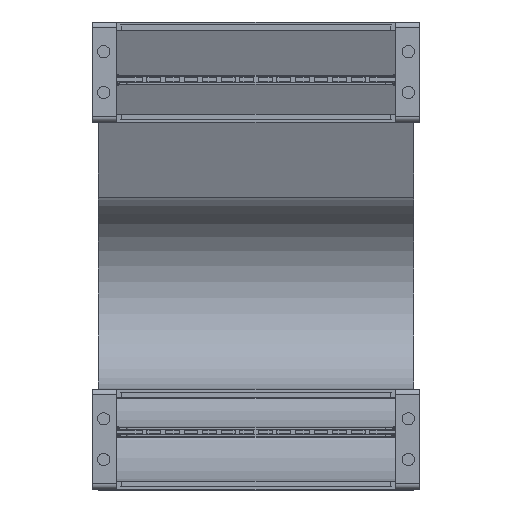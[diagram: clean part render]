
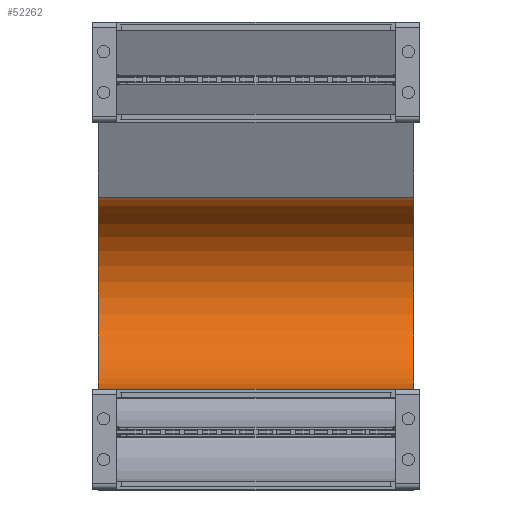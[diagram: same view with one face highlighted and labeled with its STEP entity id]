
A CAD part, top view. The second image highlights one B-rep face of the part: STEP entity #52262.
In plain terms, the highlighted cylindrical face has radius 52 mm (diameter 104 mm), a partial arc.
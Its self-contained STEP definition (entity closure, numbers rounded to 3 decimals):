
#51414=DIRECTION('',(-1.,0.,0.));
#51415=VECTOR('',#51414,170.);
#51416=CARTESIAN_POINT('',(85.,54.,-500.));
#51417=LINE('',#51416,#51415);
#51428=DIRECTION('',(-1.,0.,0.));
#51429=VECTOR('',#51428,170.);
#51430=CARTESIAN_POINT('',(85.,157.747,-505.126));
#51431=LINE('',#51430,#51429);
#51435=CARTESIAN_POINT('',(85.,106.,-500.));
#51436=DIRECTION('',(-1.,0.,0.));
#51437=DIRECTION('',(0.,0.995,-0.099));
#51438=AXIS2_PLACEMENT_3D('',#51435,#51436,#51437);
#51514=CARTESIAN_POINT('',(-85.,106.,-500.));
#51515=DIRECTION('',(-1.,0.,0.));
#51516=DIRECTION('',(0.,0.995,-0.099));
#51517=AXIS2_PLACEMENT_3D('',#51514,#51515,#51516);
#51636=CARTESIAN_POINT('',(85.,157.747,-505.126));
#51637=CARTESIAN_POINT('',(-85.,157.747,-505.126));
#51638=VERTEX_POINT('',#51636);
#51639=VERTEX_POINT('',#51637);
#51660=CARTESIAN_POINT('',(85.,54.,-500.));
#51661=CARTESIAN_POINT('',(-85.,54.,-500.));
#51662=VERTEX_POINT('',#51660);
#51663=VERTEX_POINT('',#51661);
#52248=CARTESIAN_POINT('',(1.,106.,-500.));
#52249=DIRECTION('',(-1.,0.,0.));
#52250=DIRECTION('',(0.,-0.995,0.099));
#52251=AXIS2_PLACEMENT_3D('',#52248,#52249,#52250);
#52252=CYLINDRICAL_SURFACE('',#52251,52.);
#52254=ORIENTED_EDGE('',*,*,#52253,.F.);
#52256=ORIENTED_EDGE('',*,*,#52255,.T.);
#52257=ORIENTED_EDGE('',*,*,#52231,.T.);
#52259=ORIENTED_EDGE('',*,*,#52258,.F.);
#52260=EDGE_LOOP('',(#52254,#52256,#52257,#52259));
#52261=FACE_OUTER_BOUND('',#52260,.F.);
#51439=CIRCLE('',#51438,52.);
#51518=CIRCLE('',#51517,52.);
#52231=EDGE_CURVE('',#51662,#51663,#51417,.T.);
#52253=EDGE_CURVE('',#51638,#51639,#51431,.T.);
#52255=EDGE_CURVE('',#51638,#51662,#51439,.T.);
#52258=EDGE_CURVE('',#51639,#51663,#51518,.T.);
#52262=ADVANCED_FACE('',(#52261),#52252,.F.);
